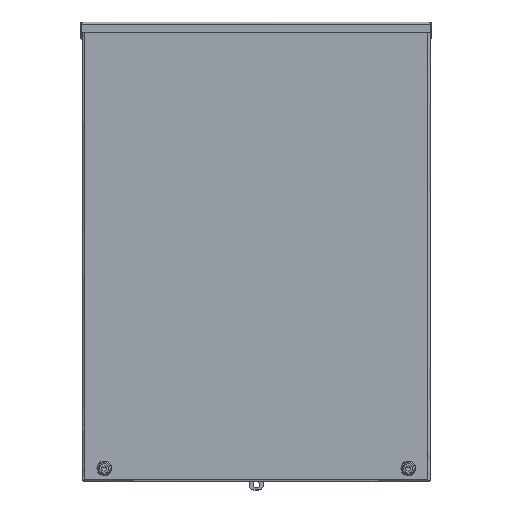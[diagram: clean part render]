
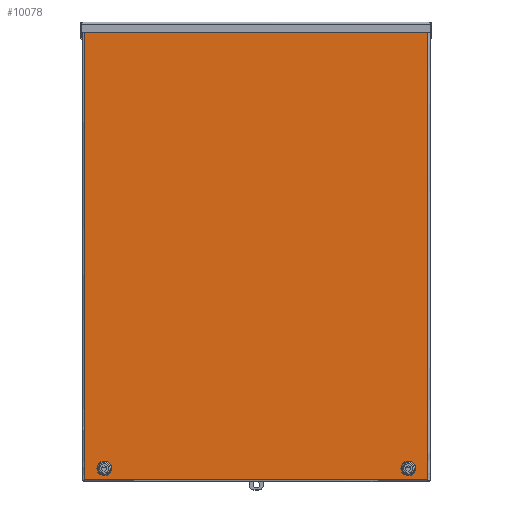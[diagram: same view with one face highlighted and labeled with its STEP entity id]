
A CAD part, top view. The second image highlights one B-rep face of the part: STEP entity #10078.
In plain terms, the highlighted free-form (B-spline) face has degree [1, 1] with [2, 2] control points.
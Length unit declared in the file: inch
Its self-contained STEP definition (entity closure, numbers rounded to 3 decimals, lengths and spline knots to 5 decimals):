
#8156=CARTESIAN_POINT('V78',(1.48018,-0.055,
   23.37));
#8157=VERTEX_POINT('V78',#8156);
#8171=CARTESIAN_POINT('E124',(1.48018,-0.055,
   23.37));
#8172=CARTESIAN_POINT('E124',(1.48018,-0.055,
   22.70285));
#8173=CARTESIAN_POINT('E124',(0.90241,-0.055,
   23.03643));
#8174=CARTESIAN_POINT('E124',(0.32464,-0.055,
   23.37));
#8175=CARTESIAN_POINT('E124',(0.90241,-0.055,
   23.70357));
#8176=CARTESIAN_POINT('E124',(1.48018,-0.055,
   24.03715));
#8177=CARTESIAN_POINT('E124',(1.48018,-0.055,
   23.37));
#8185=(BOUNDED_CURVE()B_SPLINE_CURVE(2,(#8171,#8172,#8173,#8174,
   #8175,#8176,#8177),.CIRCULAR_ARC.,.T.,.U.)
   B_SPLINE_CURVE_WITH_KNOTS((3,2,2,3),(0.0,64.0058,
   128.01159,192.01739),.UNSPECIFIED.)CURVE()
   GEOMETRIC_REPRESENTATION_ITEM()RATIONAL_B_SPLINE_CURVE((1.0,
   0.5,1.0,0.5,1.0,0.5,1.0)
   )REPRESENTATION_ITEM('E124'));
#8186=EDGE_CURVE('E124',#8157,#8157,#8185,.T.);
#8651=CARTESIAN_POINT('V68',(17.48018,-0.055,
   23.37));
#8652=VERTEX_POINT('V68',#8651);
#8666=CARTESIAN_POINT('E107',(17.48018,-0.055,
   23.37));
#8667=CARTESIAN_POINT('E107',(17.48018,-0.055,
   22.70285));
#8668=CARTESIAN_POINT('E107',(16.90241,-0.055,
   23.03643));
#8669=CARTESIAN_POINT('E107',(16.32464,-0.055,
   23.37));
#8670=CARTESIAN_POINT('E107',(16.90241,-0.055,
   23.70357));
#8671=CARTESIAN_POINT('E107',(17.48018,-0.055,
   24.03715));
#8672=CARTESIAN_POINT('E107',(17.48018,-0.055,
   23.37));
#8680=(BOUNDED_CURVE()B_SPLINE_CURVE(2,(#8666,#8667,#8668,#8669,
   #8670,#8671,#8672),.CIRCULAR_ARC.,.T.,.U.)
   B_SPLINE_CURVE_WITH_KNOTS((3,2,2,3),(0.0,64.0058,
   128.01159,192.01739),.UNSPECIFIED.)CURVE()
   GEOMETRIC_REPRESENTATION_ITEM()RATIONAL_B_SPLINE_CURVE((1.0,
   0.5,1.0,0.5,1.0,0.5,1.0)
   )REPRESENTATION_ITEM('E107'));
#8681=EDGE_CURVE('E107',#8652,#8652,#8680,.T.);
#9406=CARTESIAN_POINT('V26',(0.06,-0.055,
   23.945));
#9407=VERTEX_POINT('V26',#9406);
#9444=CARTESIAN_POINT('V39',(0.06,-0.055,
   0.));
#9445=VERTEX_POINT('V39',#9444);
#9446=CARTESIAN_POINT('E89',(0.06,-0.055,
   0.));
#9447=CARTESIAN_POINT('E89',(0.06,-0.055,
   23.945));
#9448=QUASI_UNIFORM_CURVE('E89',1,(#9446,#9447),.POLYLINE_FORM.,.F.,
   .U.);
#9449=EDGE_CURVE('E89',#9445,#9407,#9448,.T.);
#9491=CARTESIAN_POINT('V40',(18.13,-0.055,
   0.));
#9492=VERTEX_POINT('V40',#9491);
#9506=CARTESIAN_POINT('E50',(0.06,-0.055,
   0.0));
#9507=CARTESIAN_POINT('E50',(18.13,-0.055,
   0.0));
#9508=QUASI_UNIFORM_CURVE('E50',1,(#9506,#9507),.POLYLINE_FORM.,.F.,
   .U.);
#9509=EDGE_CURVE('E50',#9445,#9492,#9508,.T.);
#9547=CARTESIAN_POINT('V6',(18.13,-0.055,
   23.945));
#9548=VERTEX_POINT('V6',#9547);
#9592=CARTESIAN_POINT('E90',(18.13,-0.055,
   23.945));
#9593=CARTESIAN_POINT('E90',(18.13,-0.055,
   0.));
#9594=QUASI_UNIFORM_CURVE('E90',1,(#9592,#9593),.POLYLINE_FORM.,.F.,
   .U.);
#9595=EDGE_CURVE('E90',#9548,#9492,#9594,.T.);
#10048=CARTESIAN_POINT('E82',(0.06,-0.055,
   23.945));
#10049=CARTESIAN_POINT('E82',(18.13,-0.055,
   23.945));
#10050=QUASI_UNIFORM_CURVE('E82',1,(#10048,#10049),.POLYLINE_FORM.,
   .F.,.U.);
#10051=EDGE_CURVE('E82',#9407,#9548,#10050,.T.);
#10061=CARTESIAN_POINT('F52',(18.13394,-0.055,
   -0.00394));
#10062=CARTESIAN_POINT('F52',(18.13394,-0.055,
   23.94894));
#10063=CARTESIAN_POINT('F52',(0.05606,-0.055,
   -0.00394));
#10064=CARTESIAN_POINT('F52',(0.05606,-0.055,
   23.94894));
#10065=B_SPLINE_SURFACE_WITH_KNOTS('F52',1,1,((#10061,#10063),(
   #10062,#10064)),.PLANE_SURF.,.F.,.F.,.U.,(2,2),(2,2),(0.0,
   1.32498),(0.0,1.0),.UNSPECIFIED.);
#10066=ORIENTED_EDGE('E82',*,*,#10051,.F.);
#10067=ORIENTED_EDGE('E89',*,*,#9449,.F.);
#10068=ORIENTED_EDGE('E50',*,*,#9509,.T.);
#10069=ORIENTED_EDGE('E90',*,*,#9595,.F.);
#10070=EDGE_LOOP('F52',(#10066,#10067,#10068,#10069));
#10071=FACE_OUTER_BOUND('F52',#10070,.T.);
#10072=ORIENTED_EDGE('E107',*,*,#8681,.T.);
#10073=EDGE_LOOP('F52',(#10072));
#10074=FACE_BOUND('F52',#10073,.T.);
#10075=ORIENTED_EDGE('E124',*,*,#8186,.T.);
#10076=EDGE_LOOP('F52',(#10075));
#10077=FACE_BOUND('F52',#10076,.T.);
#10078=ADVANCED_FACE('F52',(#10071,#10074,#10077),#10065,.T.);
